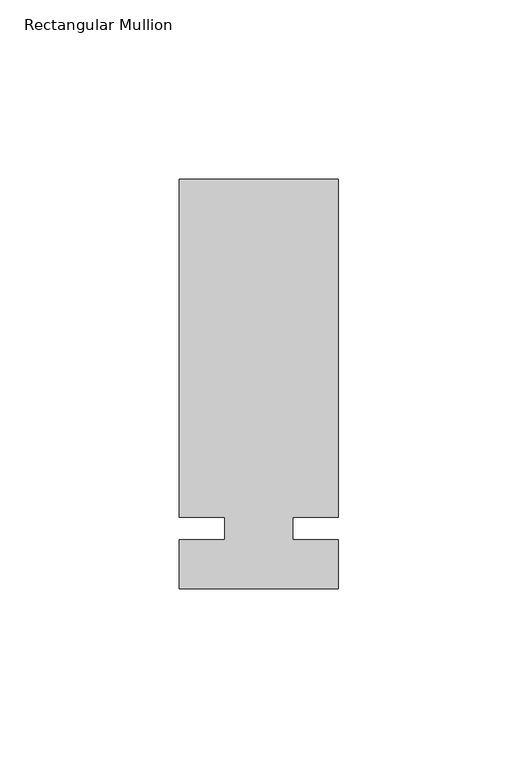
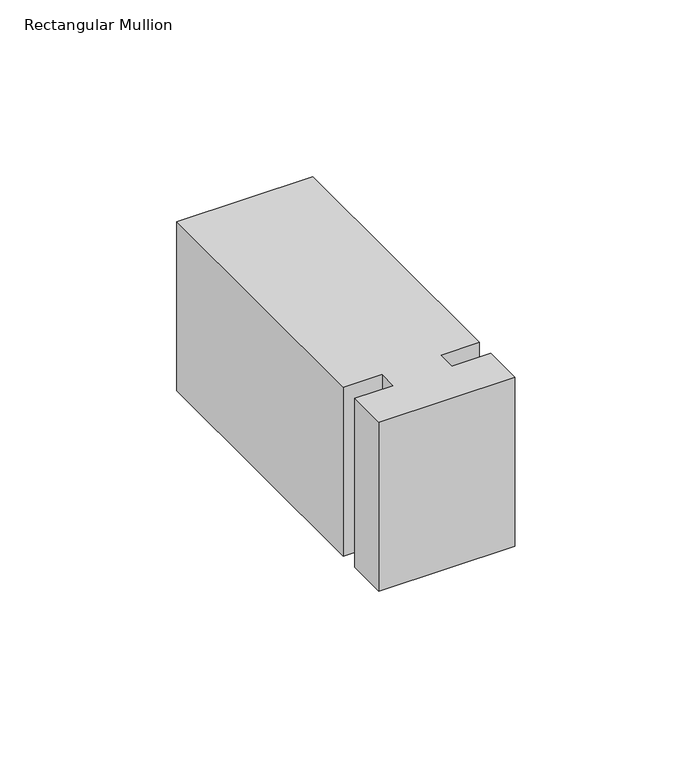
"""IFC4 building model written with IfcOpenShell, lengths in millimetres: member geometry, Rectangular Mullion : Kawneer-TRIFAB_VG_450_BACK_SB_Vertical."""

from ifc_helpers import new_model, si_unit, frame, origin, place, context, project, spatial, polyline, outline, extrude, source, transform, mapped, element, save


def rectangular_mullion_fd3b6dd5(model_context):
    return source(origin(), model_context, "Body", "SweptSolid", [
        extrude(outline(polyline([(22.225, -16.8532346), (-22.225, -16.8532346), (-22.225, -3.175), (-9.525, -3.175), (-9.525, 3.175), (-22.225, 3.175), (-22.225, 97.4467654), (22.225, 97.4467654), (22.225, 3.175), (9.5232296, 3.175), (9.5232296, -3.175), (22.225, -3.175), (22.225, -16.8532346)])), frame((0.0, 0.0, -58.3094027), z_axis=(0.0, 0.0, 1.0), x_axis=(1.0, 0.0, 0.0)), (0.0, 0.0, 1.0), 58.3094027),
    ])


if __name__ == "__main__":
    model = new_model("IFC4")
    model_context = context("Model", 3, world=origin())
    ifc_project = project(units=[si_unit("LENGTHUNIT", "METRE", prefix="MILLI")], contexts=[model_context])
    site = spatial("IfcSite", under=ifc_project)
    building = spatial("IfcBuilding", under=site)
    placement = place(None, origin())
    rectangular_mullion_shape = rectangular_mullion_fd3b6dd5(model_context)
    element("IfcMember", 1, ObjectType="Rectangular Mullion : Kawneer-TRIFAB_VG_450_BACK_SB_Vertical", at=placement, inside=building, context=model_context, shape_type="MappedRepresentation", body=[
        mapped(rectangular_mullion_shape, transform((0.0, 0.0, 0.0), x_axis=(1.0, 0.0, 0.0), y_axis=(0.0, 1.0, 0.0), z_axis=(0.0, 0.0, 1.0))),
    ])
    save(model, "model.ifc")
